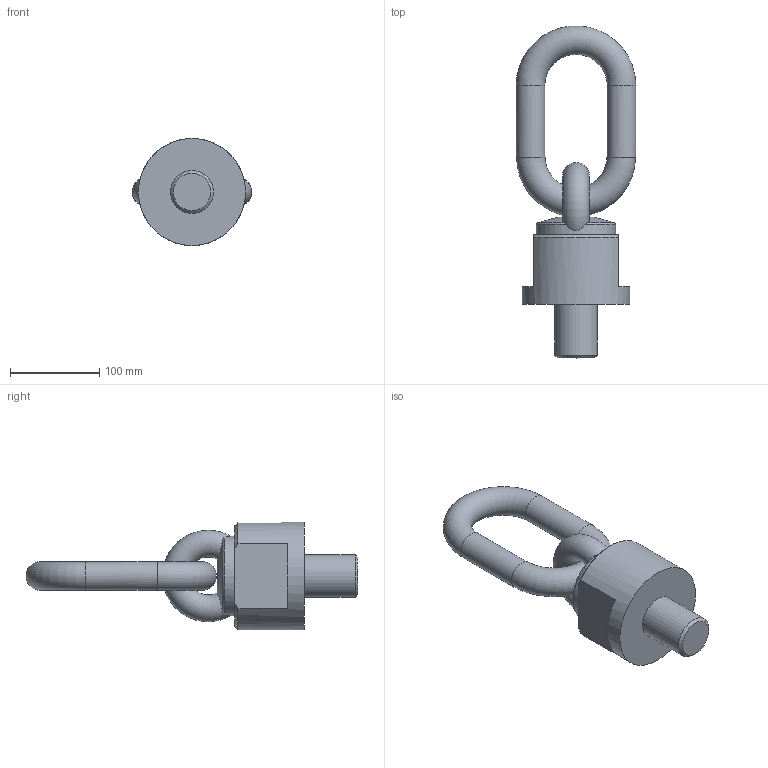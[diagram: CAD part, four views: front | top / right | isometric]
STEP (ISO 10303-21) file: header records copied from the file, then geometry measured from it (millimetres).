
FILE_DESCRIPTION( ( 'STEP AP203' ), '1' );
FILE_NAME( 'p:/temp/worker_5/temp/app_48_0201906261621417820725610e898ce_000000_00_00_000000/format_2/C8001504860.stp', '2019-06-26T14:21:42', ( '' ), ( '' ), ' ', 'PARTsolutions', ' ' );
FILE_SCHEMA( ( 'CONFIG_CONTROL_DESIGN' ) );
Length unit declared in the file: millimetre
Products named in the file (1): _C8001504860
Bounding box: 134 x 371.85 x 120 mm (x, y, z)
Volume: 1505405.6 mm3; surface area: 123035.9 mm2
Topology: 1 solids, 1 shells, 27 faces, 66 edges, 41 vertices
Faces by surface type: plane 12, torus 5, cylinder 5, cone 5
Full cylindrical faces by diameter (mm): 32 x2, 48 x1, 89.3 x1, 120 x1
Entity records: 1096 total; most frequent: CARTESIAN_POINT 486, DIRECTION 118, ORIENTED_EDGE 104, AXIS2_PLACEMENT_3D 55, EDGE_CURVE 52, EDGE_LOOP 40, VERTEX_POINT 37, FACE_OUTER_BOUND 35
